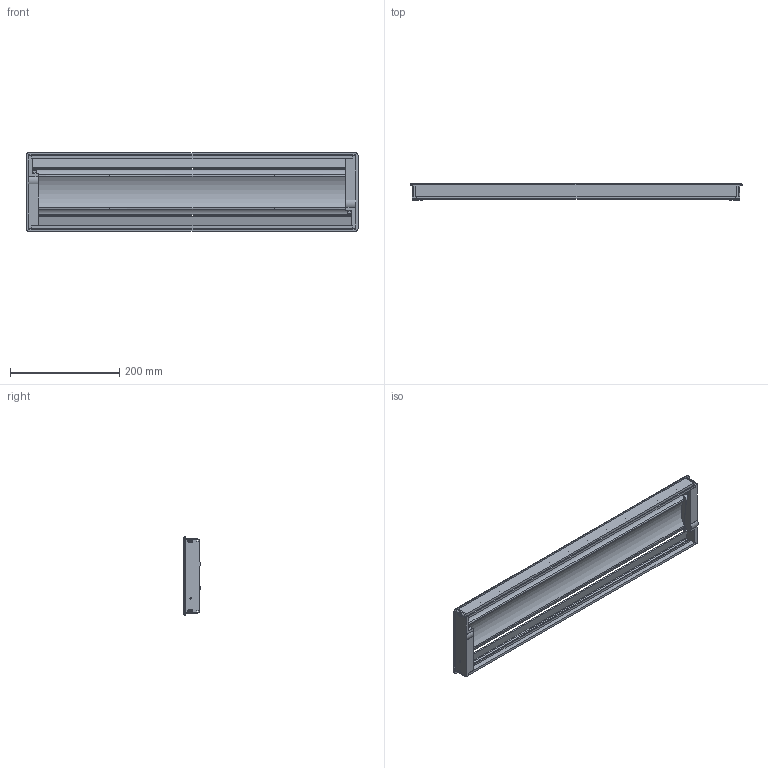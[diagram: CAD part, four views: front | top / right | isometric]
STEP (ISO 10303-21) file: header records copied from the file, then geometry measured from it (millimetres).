
FILE_DESCRIPTION (( 'STEP AP203' ), '1' );
FILE_NAME ('25.20.364-0 Soft Close Grommet Flip 612,5x148x28mm.STEP', '2024-12-19T06:35:11', ( '' ), ( '' ), 'SwSTEP 2.0', 'SolidWorks 2024', '' );
FILE_SCHEMA (( 'CONFIG_CONTROL_DESIGN' ));
Length unit declared in the file: millimetre
Products named in the file (1): 25.20.364-0 Soft Close Grommet Flip 612,5x148x28mm
Bounding box: 607.2 x 30.16 x 143.65 mm (x, y, z)
Surface area: 291973 mm2 (no closed solid volume)
Topology: 0 solids, 26 shells, 260 faces, 915 edges, 665 vertices
Faces by surface type: plane 122, cylinder 96, torus 12, sphere 12, bspline 10, cone 8
Entity records: 10517 total; most frequent: CARTESIAN_POINT 2541, DIRECTION 1775, ORIENTED_EDGE 1402, EDGE_CURVE 915, VERTEX_POINT 665, AXIS2_PLACEMENT_3D 647, LINE 481, VECTOR 481
